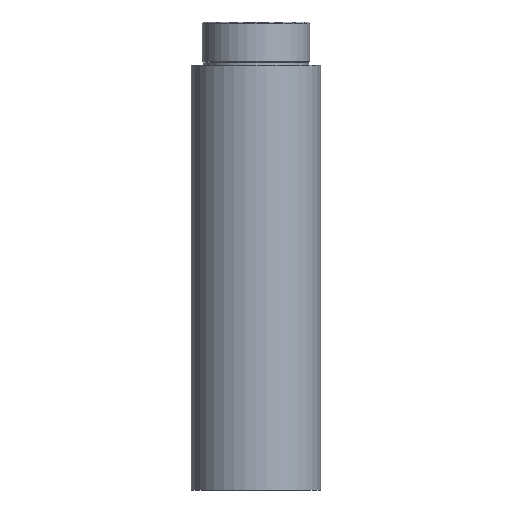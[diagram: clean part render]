
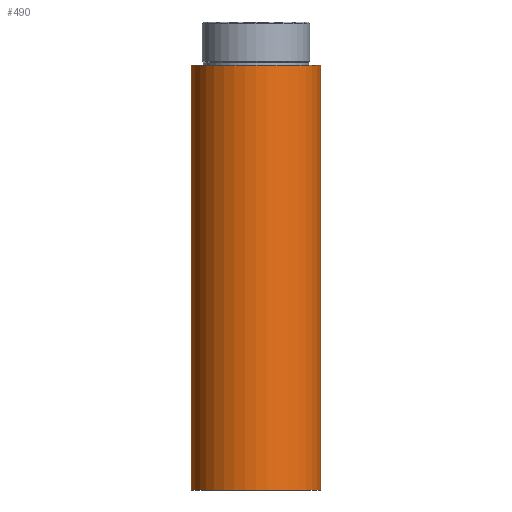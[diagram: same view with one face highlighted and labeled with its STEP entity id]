
A CAD part, front view. The second image highlights one B-rep face of the part: STEP entity #490.
In plain terms, the highlighted cylindrical face has radius 19.05 mm (diameter 38.1 mm), a partial arc.
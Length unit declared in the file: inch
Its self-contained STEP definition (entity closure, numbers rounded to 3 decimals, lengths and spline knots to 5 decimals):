
#19 = LINE ( 'NONE', #69, #603 ) ;
#38 = CARTESIAN_POINT ( 'NONE',  ( 0., 0., 0. ) ) ;
#40 = ORIENTED_EDGE ( 'NONE', *, *, #656, .F. ) ;
#55 = AXIS2_PLACEMENT_3D ( 'NONE', #59, #112, #545 ) ;
#56 = VECTOR ( 'NONE', #188, 39.37008 ) ;
#59 = CARTESIAN_POINT ( 'NONE',  ( 0., 0., 4.92126 ) ) ;
#64 = AXIS2_PLACEMENT_3D ( 'NONE', #38, #574, #625 ) ;
#66 = DIRECTION ( 'NONE',  ( 0., 0., 1. ) ) ;
#69 = CARTESIAN_POINT ( 'NONE',  ( -0.75, 0., 4.92126 ) ) ;
#71 = CIRCLE ( 'NONE', #534, 0.75 ) ;
#112 = DIRECTION ( 'NONE',  ( 0., 0., -1. ) ) ;
#121 = CYLINDRICAL_SURFACE ( 'NONE', #55, 0.75 ) ;
#143 = FACE_OUTER_BOUND ( 'NONE', #538, .T. ) ;
#187 = ORIENTED_EDGE ( 'NONE', *, *, #289, .T. ) ;
#188 = DIRECTION ( 'NONE',  ( 0., 0., -1. ) ) ;
#192 = EDGE_CURVE ( 'NONE', #313, #528, #238, .T. ) ;
#220 = VERTEX_POINT ( 'NONE', #461 ) ;
#238 = LINE ( 'NONE', #458, #56 ) ;
#254 = ORIENTED_EDGE ( 'NONE', *, *, #679, .T. ) ;
#283 = CARTESIAN_POINT ( 'NONE',  ( 0.75, 0., 0. ) ) ;
#289 = EDGE_CURVE ( 'Defeatured_0_2+Defeatured_0_1+Defeatured_0_1+Defeatured_0_1', #220, #528, #667, .T. ) ;
#313 = VERTEX_POINT ( 'NONE', #573 ) ;
#341 = DIRECTION ( 'NONE',  ( 0., 0., -1. ) ) ;
#384 = VERTEX_POINT ( 'NONE', #579 ) ;
#398 = ORIENTED_EDGE ( 'NONE', *, *, #192, .F. ) ;
#451 = DIRECTION ( 'NONE',  ( 1., 0., 0. ) ) ;
#458 = CARTESIAN_POINT ( 'NONE',  ( 0.75, 0., 4.92126 ) ) ;
#461 = CARTESIAN_POINT ( 'NONE',  ( -0.75, 0., 0. ) ) ;
#490 = ADVANCED_FACE ( 'Defeatured_0_2', ( #143 ), #121, .T. ) ;
#528 = VERTEX_POINT ( 'NONE', #283 ) ;
#534 = AXIS2_PLACEMENT_3D ( 'NONE', #611, #66, #451 ) ;
#538 = EDGE_LOOP ( 'NONE', ( #398, #40, #254, #187 ) ) ;
#545 = DIRECTION ( 'NONE',  ( -1., 0., 0. ) ) ;
#573 = CARTESIAN_POINT ( 'NONE',  ( 0.75, 0., 4.92126 ) ) ;
#574 = DIRECTION ( 'NONE',  ( 0., 0., 1. ) ) ;
#579 = CARTESIAN_POINT ( 'NONE',  ( -0.75, 0., 4.92126 ) ) ;
#603 = VECTOR ( 'NONE', #341, 39.37008 ) ;
#611 = CARTESIAN_POINT ( 'NONE',  ( 0., 0., 4.92126 ) ) ;
#625 = DIRECTION ( 'NONE',  ( 1., 0., 0. ) ) ;
#656 = EDGE_CURVE ( 'Defeatured_0_0+Defeatured_0_2+Defeatured_0_2+Defeatured_0_2', #384, #313, #71, .T. ) ;
#667 = CIRCLE ( 'NONE', #64, 0.75 ) ;
#679 = EDGE_CURVE ( 'NONE', #384, #220, #19, .T. ) ;
